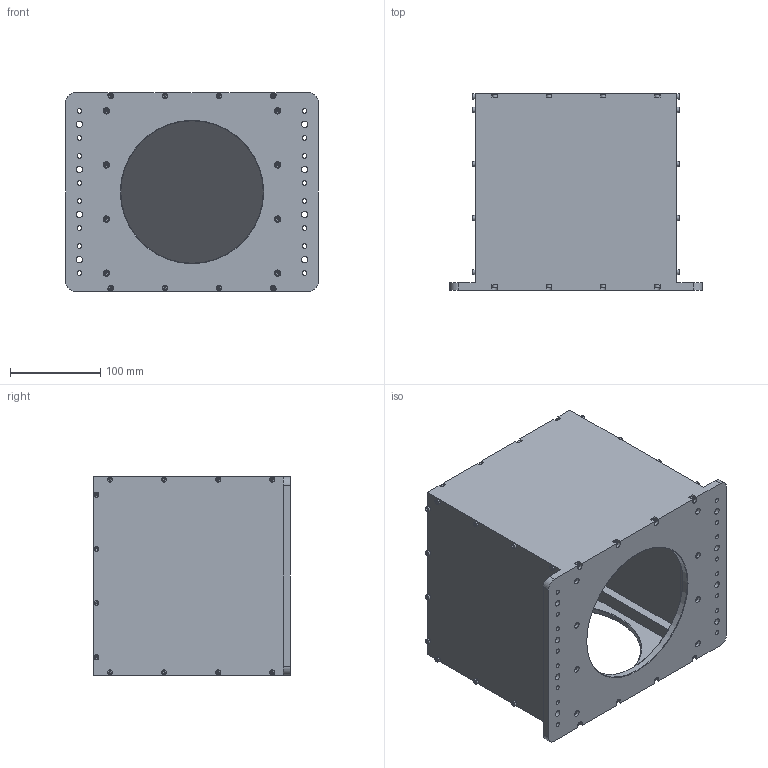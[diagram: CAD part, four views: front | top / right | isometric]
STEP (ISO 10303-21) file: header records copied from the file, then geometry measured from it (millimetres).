
FILE_DESCRIPTION (( 'STEP AP203' ), '1' );
FILE_NAME ('3d_mtl-p2s150_a003.STEP', '2017-07-21T03:01:11', ( '' ), ( '' ), 'SwSTEP 2.0', 'SolidWorks 2014', '' );
FILE_SCHEMA (( 'CONFIG_CONTROL_DESIGN' ));
Length unit declared in the file: millimetre
Products named in the file (1): 3d_mtl-p2s150_a003
Bounding box: 280 x 218 x 220 mm (x, y, z)
Volume: 1481925.5 mm3; surface area: 632047.3 mm2
Topology: 1 solids, 141 shells, 2082 faces, 4914 edges, 3082 vertices
Faces by surface type: plane 1296, cylinder 394, cone 260, torus 132
Full cylindrical faces by diameter (mm): 2.5 x82, 3 x77, 3.1 x1, 3.4 x50, 3.8 x8, 4 x1, 5 x16, 5.5 x66, 6.5 x10, 7 x16, 158 x1, 164 x2
Entity records: 51637 total; most frequent: DIRECTION 9310, CARTESIAN_POINT 8513, ORIENTED_EDGE 7448, EDGE_CURVE 3724, AXIS2_PLACEMENT_3D 3519, EDGE_LOOP 2998, VERTEX_POINT 2610, FACE_OUTER_BOUND 2544
